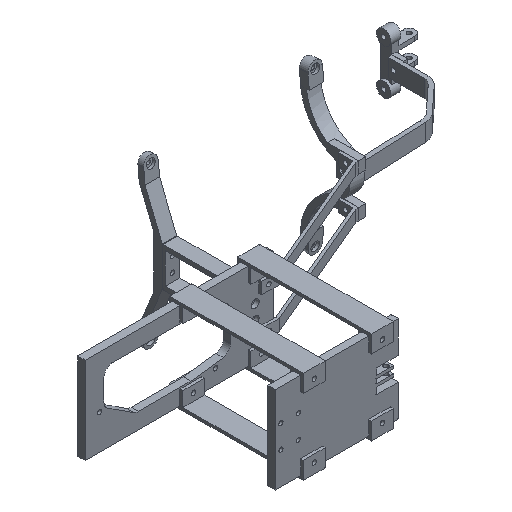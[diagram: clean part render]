
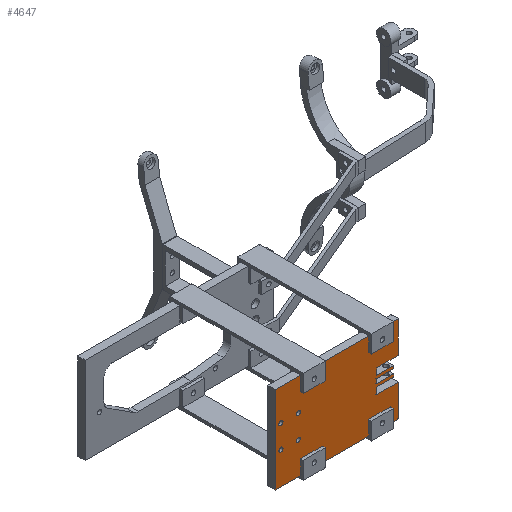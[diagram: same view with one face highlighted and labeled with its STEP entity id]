
A CAD part, isometric view. The second image highlights one B-rep face of the part: STEP entity #4647.
In plain terms, the highlighted planar face has unit normal (0, -1, 0).
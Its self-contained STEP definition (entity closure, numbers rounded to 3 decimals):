
#204=FACE_BOUND('',#1230,.T.);
#205=FACE_BOUND('',#1231,.T.);
#206=FACE_BOUND('',#1232,.T.);
#207=FACE_BOUND('',#1233,.T.);
#208=FACE_BOUND('',#1234,.T.);
#209=FACE_BOUND('',#1235,.T.);
#210=FACE_BOUND('',#1236,.T.);
#211=FACE_BOUND('',#1237,.T.);
#469=CIRCLE('',#5222,1.5);
#471=CIRCLE('',#5225,1.5);
#473=CIRCLE('',#5228,1.5);
#475=CIRCLE('',#5231,1.5);
#477=CIRCLE('',#5234,1.4);
#479=CIRCLE('',#5237,1.4);
#481=CIRCLE('',#5240,1.4);
#483=CIRCLE('',#5243,1.4);
#640=PLANE('',#5267);
#882=FACE_OUTER_BOUND('',#1229,.T.);
#1229=EDGE_LOOP('',(#4381,#4382,#4383,#4384,#4385,#4386,#4387,#4388,#4389,
#4390,#4391,#4392,#4393,#4394,#4395,#4396));
#1230=EDGE_LOOP('',(#4397));
#1231=EDGE_LOOP('',(#4398));
#1232=EDGE_LOOP('',(#4399));
#1233=EDGE_LOOP('',(#4400));
#1234=EDGE_LOOP('',(#4401));
#1235=EDGE_LOOP('',(#4402));
#1236=EDGE_LOOP('',(#4403));
#1237=EDGE_LOOP('',(#4404));
#1624=LINE('',#7834,#2058);
#1628=LINE('',#7842,#2062);
#1631=LINE('',#7848,#2065);
#1634=LINE('',#7854,#2068);
#1637=LINE('',#7860,#2071);
#1640=LINE('',#7866,#2074);
#1643=LINE('',#7872,#2077);
#1646=LINE('',#7878,#2080);
#1649=LINE('',#7884,#2083);
#1652=LINE('',#7890,#2086);
#1655=LINE('',#7896,#2089);
#1658=LINE('',#7902,#2092);
#1661=LINE('',#7908,#2095);
#1664=LINE('',#7914,#2098);
#1667=LINE('',#7920,#2101);
#1670=LINE('',#7925,#2104);
#2058=VECTOR('',#6511,10.);
#2062=VECTOR('',#6517,10.);
#2065=VECTOR('',#6522,10.);
#2068=VECTOR('',#6527,10.);
#2071=VECTOR('',#6532,10.);
#2074=VECTOR('',#6537,10.);
#2077=VECTOR('',#6542,10.);
#2080=VECTOR('',#6547,10.);
#2083=VECTOR('',#6552,10.);
#2086=VECTOR('',#6557,10.);
#2089=VECTOR('',#6562,10.);
#2092=VECTOR('',#6567,10.);
#2095=VECTOR('',#6572,10.);
#2098=VECTOR('',#6577,10.);
#2101=VECTOR('',#6582,10.);
#2104=VECTOR('',#6587,10.);
#2476=VERTEX_POINT('',#7774);
#2478=VERTEX_POINT('',#7780);
#2480=VERTEX_POINT('',#7786);
#2482=VERTEX_POINT('',#7792);
#2484=VERTEX_POINT('',#7798);
#2486=VERTEX_POINT('',#7804);
#2488=VERTEX_POINT('',#7810);
#2490=VERTEX_POINT('',#7816);
#2495=VERTEX_POINT('',#7832);
#2496=VERTEX_POINT('',#7833);
#2499=VERTEX_POINT('',#7841);
#2501=VERTEX_POINT('',#7847);
#2503=VERTEX_POINT('',#7853);
#2505=VERTEX_POINT('',#7859);
#2507=VERTEX_POINT('',#7865);
#2509=VERTEX_POINT('',#7871);
#2511=VERTEX_POINT('',#7877);
#2513=VERTEX_POINT('',#7883);
#2515=VERTEX_POINT('',#7889);
#2517=VERTEX_POINT('',#7895);
#2519=VERTEX_POINT('',#7901);
#2521=VERTEX_POINT('',#7907);
#2523=VERTEX_POINT('',#7913);
#2525=VERTEX_POINT('',#7919);
#3077=EDGE_CURVE('',#2476,#2476,#469,.T.);
#3080=EDGE_CURVE('',#2478,#2478,#471,.T.);
#3083=EDGE_CURVE('',#2480,#2480,#473,.T.);
#3086=EDGE_CURVE('',#2482,#2482,#475,.T.);
#3089=EDGE_CURVE('',#2484,#2484,#477,.T.);
#3092=EDGE_CURVE('',#2486,#2486,#479,.T.);
#3095=EDGE_CURVE('',#2488,#2488,#481,.T.);
#3098=EDGE_CURVE('',#2490,#2490,#483,.T.);
#3105=EDGE_CURVE('',#2495,#2496,#1624,.T.);
#3109=EDGE_CURVE('',#2499,#2495,#1628,.T.);
#3112=EDGE_CURVE('',#2501,#2499,#1631,.T.);
#3115=EDGE_CURVE('',#2503,#2501,#1634,.T.);
#3118=EDGE_CURVE('',#2505,#2503,#1637,.T.);
#3121=EDGE_CURVE('',#2507,#2505,#1640,.T.);
#3124=EDGE_CURVE('',#2509,#2507,#1643,.T.);
#3127=EDGE_CURVE('',#2511,#2509,#1646,.T.);
#3130=EDGE_CURVE('',#2513,#2511,#1649,.T.);
#3133=EDGE_CURVE('',#2515,#2513,#1652,.T.);
#3136=EDGE_CURVE('',#2517,#2515,#1655,.T.);
#3139=EDGE_CURVE('',#2519,#2517,#1658,.T.);
#3142=EDGE_CURVE('',#2521,#2519,#1661,.T.);
#3145=EDGE_CURVE('',#2523,#2521,#1664,.T.);
#3148=EDGE_CURVE('',#2525,#2523,#1667,.T.);
#3151=EDGE_CURVE('',#2496,#2525,#1670,.T.);
#4381=ORIENTED_EDGE('',*,*,#3151,.F.);
#4382=ORIENTED_EDGE('',*,*,#3105,.F.);
#4383=ORIENTED_EDGE('',*,*,#3109,.F.);
#4384=ORIENTED_EDGE('',*,*,#3112,.F.);
#4385=ORIENTED_EDGE('',*,*,#3115,.F.);
#4386=ORIENTED_EDGE('',*,*,#3118,.F.);
#4387=ORIENTED_EDGE('',*,*,#3121,.F.);
#4388=ORIENTED_EDGE('',*,*,#3124,.F.);
#4389=ORIENTED_EDGE('',*,*,#3127,.F.);
#4390=ORIENTED_EDGE('',*,*,#3130,.F.);
#4391=ORIENTED_EDGE('',*,*,#3133,.F.);
#4392=ORIENTED_EDGE('',*,*,#3136,.F.);
#4393=ORIENTED_EDGE('',*,*,#3139,.F.);
#4394=ORIENTED_EDGE('',*,*,#3142,.F.);
#4395=ORIENTED_EDGE('',*,*,#3145,.F.);
#4396=ORIENTED_EDGE('',*,*,#3148,.F.);
#4397=ORIENTED_EDGE('',*,*,#3077,.T.);
#4398=ORIENTED_EDGE('',*,*,#3080,.T.);
#4399=ORIENTED_EDGE('',*,*,#3083,.T.);
#4400=ORIENTED_EDGE('',*,*,#3086,.T.);
#4401=ORIENTED_EDGE('',*,*,#3089,.T.);
#4402=ORIENTED_EDGE('',*,*,#3092,.T.);
#4403=ORIENTED_EDGE('',*,*,#3095,.T.);
#4404=ORIENTED_EDGE('',*,*,#3098,.T.);
#4647=ADVANCED_FACE('',(#882,#204,#205,#206,#207,#208,#209,#210,#211),#640,
 .F.);
#5222=AXIS2_PLACEMENT_3D('',#7776,#6444,#6445);
#5225=AXIS2_PLACEMENT_3D('',#7782,#6451,#6452);
#5228=AXIS2_PLACEMENT_3D('',#7788,#6458,#6459);
#5231=AXIS2_PLACEMENT_3D('',#7794,#6465,#6466);
#5234=AXIS2_PLACEMENT_3D('',#7800,#6472,#6473);
#5237=AXIS2_PLACEMENT_3D('',#7806,#6479,#6480);
#5240=AXIS2_PLACEMENT_3D('',#7812,#6486,#6487);
#5243=AXIS2_PLACEMENT_3D('',#7818,#6493,#6494);
#5267=AXIS2_PLACEMENT_3D('',#7928,#6591,#6592);
#6444=DIRECTION('center_axis',(0.,1.,0.));
#6445=DIRECTION('ref_axis',(1.,0.,0.));
#6451=DIRECTION('center_axis',(0.,1.,0.));
#6452=DIRECTION('ref_axis',(1.,0.,0.));
#6458=DIRECTION('center_axis',(0.,1.,0.));
#6459=DIRECTION('ref_axis',(1.,0.,0.));
#6465=DIRECTION('center_axis',(0.,1.,0.));
#6466=DIRECTION('ref_axis',(1.,0.,0.));
#6472=DIRECTION('center_axis',(0.,1.,0.));
#6473=DIRECTION('ref_axis',(1.,0.,0.));
#6479=DIRECTION('center_axis',(0.,1.,0.));
#6480=DIRECTION('ref_axis',(1.,0.,0.));
#6486=DIRECTION('center_axis',(0.,1.,0.));
#6487=DIRECTION('ref_axis',(1.,0.,0.));
#6493=DIRECTION('center_axis',(0.,1.,0.));
#6494=DIRECTION('ref_axis',(1.,0.,0.));
#6511=DIRECTION('',(-1.,0.,0.));
#6517=DIRECTION('',(0.,0.,-1.));
#6522=DIRECTION('',(-1.,0.,0.));
#6527=DIRECTION('',(0.,0.,1.));
#6532=DIRECTION('',(-1.,0.,0.));
#6537=DIRECTION('',(0.,0.,-1.));
#6542=DIRECTION('',(-1.,0.,0.));
#6547=DIRECTION('',(0.,0.,1.));
#6552=DIRECTION('',(-1.,0.,0.));
#6557=DIRECTION('',(0.,0.,-1.));
#6562=DIRECTION('',(-1.,0.,0.));
#6567=DIRECTION('',(0.,0.,1.));
#6572=DIRECTION('',(-1.,0.,0.));
#6577=DIRECTION('',(0.,0.,-1.));
#6582=DIRECTION('',(1.,0.,0.));
#6587=DIRECTION('',(0.,0.,1.));
#6591=DIRECTION('center_axis',(0.,1.,0.));
#6592=DIRECTION('ref_axis',(0.,0.,1.));
#7774=CARTESIAN_POINT('',(23.5,0.,60.));
#7776=CARTESIAN_POINT('Origin',(25.,0.,60.));
#7780=CARTESIAN_POINT('',(-26.5,0.,60.));
#7782=CARTESIAN_POINT('Origin',(-25.,0.,60.));
#7786=CARTESIAN_POINT('',(23.5,0.,13.));
#7788=CARTESIAN_POINT('Origin',(25.,0.,13.));
#7792=CARTESIAN_POINT('',(-26.5,0.,13.));
#7794=CARTESIAN_POINT('Origin',(-25.,0.,13.));
#7798=CARTESIAN_POINT('',(6.6,0.,69.));
#7800=CARTESIAN_POINT('Origin',(8.,0.,69.));
#7804=CARTESIAN_POINT('',(-9.4,0.,69.));
#7806=CARTESIAN_POINT('Origin',(-8.,0.,69.));
#7810=CARTESIAN_POINT('',(6.6,0.,81.));
#7812=CARTESIAN_POINT('Origin',(8.,0.,81.));
#7816=CARTESIAN_POINT('',(-9.4,0.,81.));
#7818=CARTESIAN_POINT('Origin',(-8.,0.,81.));
#7832=CARTESIAN_POINT('',(-8.,0.,0.));
#7833=CARTESIAN_POINT('',(-30.,0.,0.));
#7834=CARTESIAN_POINT('',(-8.,0.,0.));
#7841=CARTESIAN_POINT('',(-8.,0.,15.));
#7842=CARTESIAN_POINT('',(-8.,0.,15.));
#7847=CARTESIAN_POINT('',(-3.5,0.,15.));
#7848=CARTESIAN_POINT('',(-3.5,0.,15.));
#7853=CARTESIAN_POINT('',(-3.5,0.,3.));
#7854=CARTESIAN_POINT('',(-3.5,0.,3.));
#7859=CARTESIAN_POINT('',(-1.5,0.,3.));
#7860=CARTESIAN_POINT('',(-1.5,0.,3.));
#7865=CARTESIAN_POINT('',(-1.5,0.,15.));
#7866=CARTESIAN_POINT('',(-1.5,0.,15.));
#7871=CARTESIAN_POINT('',(1.5,0.,15.));
#7872=CARTESIAN_POINT('',(1.5,0.,15.));
#7877=CARTESIAN_POINT('',(1.5,0.,3.));
#7878=CARTESIAN_POINT('',(1.5,0.,3.));
#7883=CARTESIAN_POINT('',(3.5,0.,3.));
#7884=CARTESIAN_POINT('',(3.5,0.,3.));
#7889=CARTESIAN_POINT('',(3.5,0.,15.));
#7890=CARTESIAN_POINT('',(3.5,0.,15.));
#7895=CARTESIAN_POINT('',(8.,0.,15.));
#7896=CARTESIAN_POINT('',(8.,0.,15.));
#7901=CARTESIAN_POINT('',(8.,0.,0.));
#7902=CARTESIAN_POINT('',(8.,0.,0.));
#7907=CARTESIAN_POINT('',(30.,0.,0.));
#7908=CARTESIAN_POINT('',(30.,0.,0.));
#7913=CARTESIAN_POINT('',(30.,0.,85.));
#7914=CARTESIAN_POINT('',(30.,0.,85.));
#7919=CARTESIAN_POINT('',(-30.,0.,85.));
#7920=CARTESIAN_POINT('',(-30.,0.,85.));
#7925=CARTESIAN_POINT('',(-30.,0.,0.));
#7928=CARTESIAN_POINT('Origin',(0.,0.,42.5));
